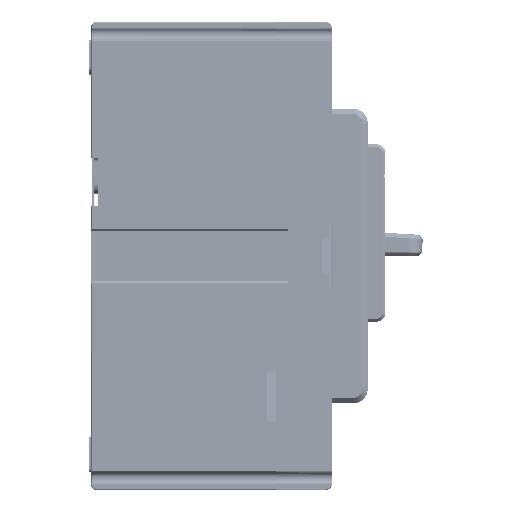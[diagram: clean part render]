
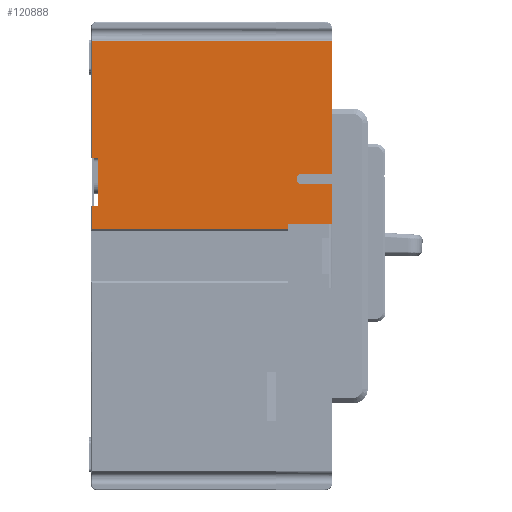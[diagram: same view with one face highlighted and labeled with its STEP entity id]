
A CAD part, left-side view. The second image highlights one B-rep face of the part: STEP entity #120888.
In plain terms, the highlighted planar face has unit normal (-1, 0, 0).
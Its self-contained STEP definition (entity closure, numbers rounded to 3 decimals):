
#7541=DIRECTION('',(0.,-1.,0.));
#7542=VECTOR('',#7541,12.2);
#7543=CARTESIAN_POINT('',(0.,-1.6,-57.1));
#7544=LINE('',#7543,#7542);
#7612=DIRECTION('',(0.,0.,1.));
#7613=VECTOR('',#7612,1.4);
#7614=CARTESIAN_POINT('',(0.,-1.6,-58.5));
#7615=LINE('',#7614,#7613);
#7632=DIRECTION('',(0.,-1.,0.));
#7633=VECTOR('',#7632,55.3);
#7634=CARTESIAN_POINT('',(0.,53.7,-58.5));
#7635=LINE('',#7634,#7633);
#7644=DIRECTION('',(0.,0.,1.));
#7645=VECTOR('',#7644,0.139);
#7646=CARTESIAN_POINT('',(0.,2.,-5.428));
#7647=LINE('',#7646,#7645);
#7648=CARTESIAN_POINT('',(0.,-5.5,-44.3));
#7649=DIRECTION('',(-1.,0.,0.));
#7650=DIRECTION('',(0.,0.,1.));
#7651=AXIS2_PLACEMENT_3D('',#7648,#7649,#7650);
#7653=DIRECTION('',(0.,-1.,0.));
#7654=VECTOR('',#7653,8.3);
#7655=CARTESIAN_POINT('',(0.,-5.5,-45.8));
#7656=LINE('',#7655,#7654);
#7657=DIRECTION('',(0.,0.,1.));
#7658=VECTOR('',#7657,13.6);
#7659=CARTESIAN_POINT('',(0.,52.,-52.));
#7660=LINE('',#7659,#7658);
#7661=DIRECTION('',(0.,1.,0.));
#7662=VECTOR('',#7661,1.7);
#7663=CARTESIAN_POINT('',(0.,52.,-38.4));
#7664=LINE('',#7663,#7662);
#7670=DIRECTION('',(0.,1.,0.));
#7671=VECTOR('',#7670,51.7);
#7672=CARTESIAN_POINT('',(0.,2.,-5.428));
#7673=LINE('',#7672,#7671);
#8011=DIRECTION('',(0.,0.,-1.));
#8012=VECTOR('',#8011,32.972);
#8013=CARTESIAN_POINT('',(0.,53.7,-5.428));
#8014=LINE('',#8013,#8012);
#8036=DIRECTION('',(0.,1.,0.));
#8037=VECTOR('',#8036,1.7);
#8038=CARTESIAN_POINT('',(0.,52.,-52.));
#8039=LINE('',#8038,#8037);
#32356=DIRECTION('',(0.,0.,1.));
#32357=VECTOR('',#32356,37.51);
#32358=CARTESIAN_POINT('',(0.,-13.8,-42.8));
#32359=LINE('',#32358,#32357);
#32368=DIRECTION('',(0.,-1.,0.));
#32369=VECTOR('',#32368,8.3);
#32370=CARTESIAN_POINT('',(0.,-5.5,-42.8));
#32371=LINE('',#32370,#32369);
#32406=DIRECTION('',(0.,0.,1.));
#32407=VECTOR('',#32406,11.3);
#32408=CARTESIAN_POINT('',(0.,-13.8,-57.1));
#32409=LINE('',#32408,#32407);
#32440=DIRECTION('',(0.,1.,0.));
#32441=VECTOR('',#32440,15.8);
#32442=CARTESIAN_POINT('',(0.,-13.8,-5.29));
#32443=LINE('',#32442,#32441);
#64107=DIRECTION('',(0.,0.,-1.));
#64108=VECTOR('',#64107,6.5);
#64109=CARTESIAN_POINT('',(0.,53.7,-52.));
#64110=LINE('',#64109,#64108);
#89959=CARTESIAN_POINT('',(0.,53.7,-5.428));
#89960=VERTEX_POINT('',#89959);
#89961=CARTESIAN_POINT('',(0.,53.7,-52.));
#89962=CARTESIAN_POINT('',(0.,53.7,-58.5));
#89963=VERTEX_POINT('',#89961);
#89964=VERTEX_POINT('',#89962);
#89965=CARTESIAN_POINT('',(0.,52.,-52.));
#89966=VERTEX_POINT('',#89965);
#89967=CARTESIAN_POINT('',(0.,52.,-38.4));
#89968=VERTEX_POINT('',#89967);
#89969=CARTESIAN_POINT('',(0.,53.7,-38.4));
#89970=VERTEX_POINT('',#89969);
#97511=CARTESIAN_POINT('',(0.,2.,-5.29));
#97512=VERTEX_POINT('',#97511);
#101529=CARTESIAN_POINT('',(0.,-13.8,-5.29));
#101531=VERTEX_POINT('',#101529);
#101532=CARTESIAN_POINT('',(0.,-13.8,-42.8));
#101533=VERTEX_POINT('',#101532);
#101534=CARTESIAN_POINT('',(0.,-5.5,-42.8));
#101536=VERTEX_POINT('',#101534);
#101542=CARTESIAN_POINT('',(0.,-5.5,-45.8));
#101543=VERTEX_POINT('',#101542);
#101544=CARTESIAN_POINT('',(0.,-13.8,-45.8));
#101545=VERTEX_POINT('',#101544);
#101546=CARTESIAN_POINT('',(0.,-13.8,-57.1));
#101547=VERTEX_POINT('',#101546);
#101549=CARTESIAN_POINT('',(0.,-1.6,-57.1));
#101551=VERTEX_POINT('',#101549);
#101591=CARTESIAN_POINT('',(0.,-1.6,-58.5));
#101593=VERTEX_POINT('',#101591);
#103391=CARTESIAN_POINT('',(0.,2.,-5.428));
#103392=VERTEX_POINT('',#103391);
#120852=CARTESIAN_POINT('',(0.,2.,-132.));
#120853=DIRECTION('',(-1.,0.,0.));
#120854=DIRECTION('',(0.,0.,1.));
#120855=AXIS2_PLACEMENT_3D('',#120852,#120853,#120854);
#120856=PLANE('',#120855);
#120858=ORIENTED_EDGE('',*,*,#120857,.F.);
#120860=ORIENTED_EDGE('',*,*,#120859,.T.);
#120862=ORIENTED_EDGE('',*,*,#120861,.F.);
#120864=ORIENTED_EDGE('',*,*,#120863,.F.);
#120866=ORIENTED_EDGE('',*,*,#120865,.F.);
#120868=ORIENTED_EDGE('',*,*,#120867,.T.);
#120870=ORIENTED_EDGE('',*,*,#120869,.T.);
#120872=ORIENTED_EDGE('',*,*,#120871,.F.);
#120873=ORIENTED_EDGE('',*,*,#120725,.F.);
#120874=ORIENTED_EDGE('',*,*,#120819,.F.);
#120875=ORIENTED_EDGE('',*,*,#120838,.F.);
#120877=ORIENTED_EDGE('',*,*,#120876,.F.);
#120879=ORIENTED_EDGE('',*,*,#120878,.F.);
#120881=ORIENTED_EDGE('',*,*,#120880,.T.);
#120883=ORIENTED_EDGE('',*,*,#120882,.T.);
#120885=ORIENTED_EDGE('',*,*,#120884,.F.);
#120886=EDGE_LOOP('',(#120858,#120860,#120862,#120864,#120866,#120868,#120870,
#120872,#120873,#120874,#120875,#120877,#120879,#120881,#120883,#120885));
#120887=FACE_OUTER_BOUND('',#120886,.F.);
#120888=ADVANCED_FACE('',(#120887),#120856,.T.);
#7652=CIRCLE('',#7651,1.5);
#120725=EDGE_CURVE('',#101551,#101547,#7544,.T.);
#120819=EDGE_CURVE('',#101593,#101551,#7615,.T.);
#120838=EDGE_CURVE('',#89964,#101593,#7635,.T.);
#120857=EDGE_CURVE('',#103392,#89960,#7673,.T.);
#120859=EDGE_CURVE('',#103392,#97512,#7647,.T.);
#120861=EDGE_CURVE('',#101531,#97512,#32443,.T.);
#120863=EDGE_CURVE('',#101533,#101531,#32359,.T.);
#120865=EDGE_CURVE('',#101536,#101533,#32371,.T.);
#120867=EDGE_CURVE('',#101536,#101543,#7652,.T.);
#120869=EDGE_CURVE('',#101543,#101545,#7656,.T.);
#120871=EDGE_CURVE('',#101547,#101545,#32409,.T.);
#120876=EDGE_CURVE('',#89963,#89964,#64110,.T.);
#120878=EDGE_CURVE('',#89966,#89963,#8039,.T.);
#120880=EDGE_CURVE('',#89966,#89968,#7660,.T.);
#120882=EDGE_CURVE('',#89968,#89970,#7664,.T.);
#120884=EDGE_CURVE('',#89960,#89970,#8014,.T.);
